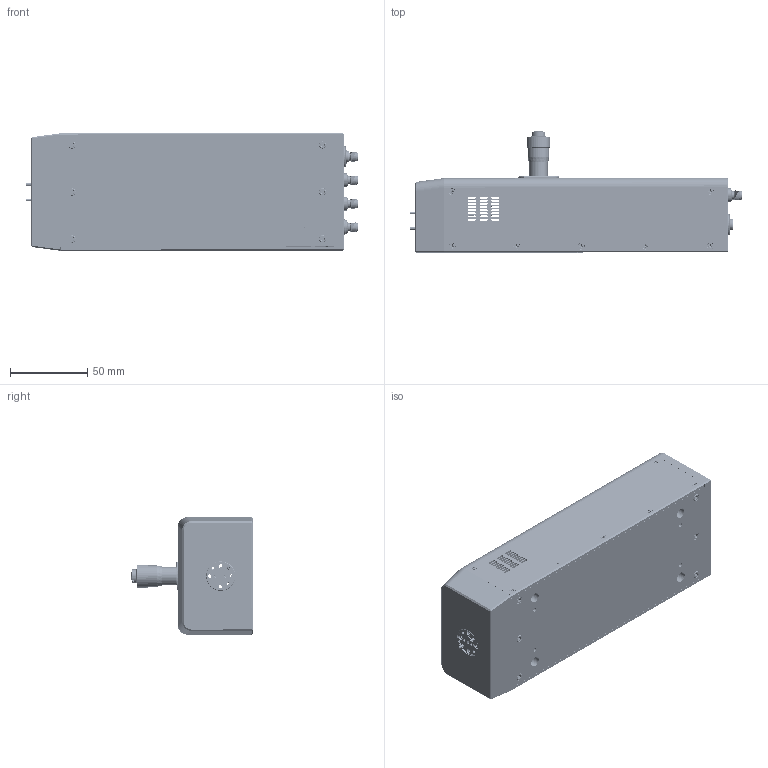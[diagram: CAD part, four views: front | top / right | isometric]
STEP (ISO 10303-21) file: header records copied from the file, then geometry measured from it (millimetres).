
FILE_DESCRIPTION (( 'STEP AP214' ), '1' );
FILE_NAME ('TO-SW-A-M-2, Defeatured, mountable.STEP', '2025-06-16T17:07:28', ( '' ), ( '' ), 'SwSTEP 2.0', 'SolidWorks 2021', '' );
FILE_SCHEMA (( 'AUTOMOTIVE_DESIGN' ));
Length unit declared in the file: inch
Products named in the file (1): TO-SW-A-M-2, Defeatured, mountable
Bounding box: 215.51 x 78.8 x 76.35 mm (x, y, z)
Volume: 204149.5 mm3; surface area: 134678.1 mm2
Topology: 81 solids, 81 shells, 4139 faces, 11048 edges, 7089 vertices
Faces by surface type: cylinder 1910, plane 1092, cone 614, bspline 515, torus 8
Entity records: 433187 total; most frequent: CARTESIAN_POINT 287212, ORIENTED_EDGE 21944, DIRECTION 15875, EDGE_CURVE 10972, VERTEX_POINT 7089, AXIS2_PLACEMENT_3D 5846, EDGE_LOOP 4513, LINE 4183
